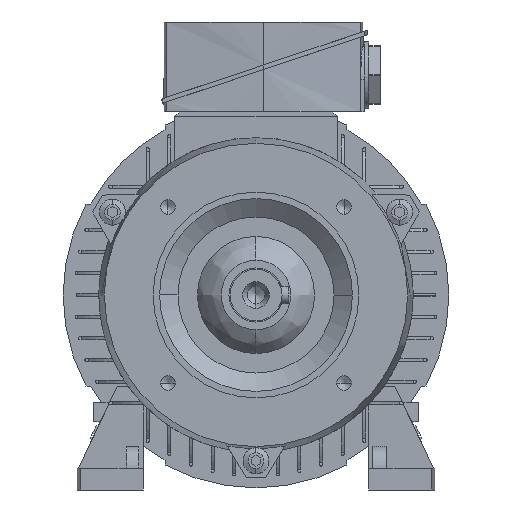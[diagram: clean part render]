
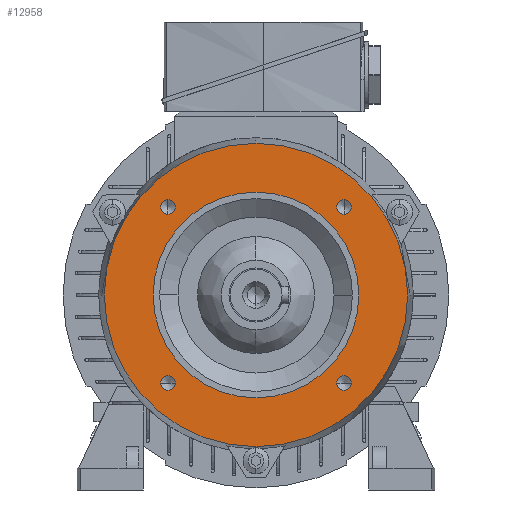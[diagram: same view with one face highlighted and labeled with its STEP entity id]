
A CAD part, left-side view. The second image highlights one B-rep face of the part: STEP entity #12958.
In plain terms, the highlighted planar face has unit normal (-1, 0, 0).
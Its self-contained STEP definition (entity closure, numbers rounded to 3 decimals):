
#187 = AXIS2_PLACEMENT_3D ( 'NONE', #12773, #12570, #12332 ) ;
#376 = AXIS2_PLACEMENT_3D ( 'NONE', #16396, #16325, #16278 ) ;
#667 = VERTEX_POINT ( 'NONE', #25274 ) ;
#944 = CARTESIAN_POINT ( 'NONE',  ( -34.5, 0., -47.5 ) ) ;
#1367 = CARTESIAN_POINT ( 'NONE',  ( -34.5, 40.659, 43.984 ) ) ;
#1917 = AXIS2_PLACEMENT_3D ( 'NONE', #18801, #18780, #18731 ) ;
#1924 = AXIS2_PLACEMENT_3D ( 'NONE', #18577, #23804, #18461 ) ;
#2826 = VERTEX_POINT ( 'NONE', #5197 ) ;
#3641 = CARTESIAN_POINT ( 'NONE',  ( -34.5, 0., -70. ) ) ;
#3792 = DIRECTION ( 'NONE',  ( 0., 0., -1. ) ) ;
#4373 = DIRECTION ( 'NONE',  ( 1., 0., 0. ) ) ;
#4396 = CARTESIAN_POINT ( 'NONE',  ( -34.5, -40.659, -43.984 ) ) ;
#4542 = CARTESIAN_POINT ( 'NONE',  ( -34.5, -40.659, -40.659 ) ) ;
#5197 = CARTESIAN_POINT ( 'NONE',  ( -34.5, 40.659, 37.334 ) ) ;
#5587 = AXIS2_PLACEMENT_3D ( 'NONE', #6302, #6256, #6219 ) ;
#5620 = AXIS2_PLACEMENT_3D ( 'NONE', #32292, #32250, #32225 ) ;
#5770 = VERTEX_POINT ( 'NONE', #19573 ) ;
#5905 = AXIS2_PLACEMENT_3D ( 'NONE', #4542, #4373, #3792 ) ;
#6163 = AXIS2_PLACEMENT_3D ( 'NONE', #20737, #21752, #22541 ) ;
#6219 = DIRECTION ( 'NONE',  ( 0., 0., 1. ) ) ;
#6256 = DIRECTION ( 'NONE',  ( -1., 0., 0. ) ) ;
#6302 = CARTESIAN_POINT ( 'NONE',  ( -34.5, 0., 58.75 ) ) ;
#6489 = AXIS2_PLACEMENT_3D ( 'NONE', #33076, #32704, #32641 ) ;
#6967 = AXIS2_PLACEMENT_3D ( 'NONE', #12232, #12132, #12015 ) ;
#7158 = CIRCLE ( 'NONE', #1917, 3.325 ) ;
#7231 = CIRCLE ( 'NONE', #1924, 3.325 ) ;
#7601 = VERTEX_POINT ( 'NONE', #13542 ) ;
#7661 = PLANE ( 'NONE',  #5587 ) ;
#7863 = CARTESIAN_POINT ( 'NONE',  ( -34.5, -40.659, 43.984 ) ) ;
#10160 = EDGE_CURVE ( 'NONE', #20860, #20980, #20338, .T. ) ;
#10317 = EDGE_CURVE ( 'NONE', #31026, #2826, #26247, .T. ) ;
#10408 = EDGE_CURVE ( 'NONE', #21512, #7601, #24703, .T. ) ;
#10541 = CIRCLE ( 'NONE', #5905, 3.325 ) ;
#10560 = DIRECTION ( 'NONE',  ( 0., 0., -1. ) ) ;
#10570 = EDGE_CURVE ( 'NONE', #667, #20643, #10541, .T. ) ;
#10613 = DIRECTION ( 'NONE',  ( 1., 0., 0. ) ) ;
#10645 = CARTESIAN_POINT ( 'NONE',  ( -34.5, 40.659, -40.659 ) ) ;
#10710 = EDGE_CURVE ( 'NONE', #16291, #5770, #15084, .T. ) ;
#10762 = FACE_BOUND ( 'NONE', #13818, .T. ) ;
#11029 = FACE_BOUND ( 'NONE', #25158, .T. ) ;
#11069 = FACE_OUTER_BOUND ( 'NONE', #14741, .T. ) ;
#11103 = FACE_BOUND ( 'NONE', #16407, .T. ) ;
#12015 = DIRECTION ( 'NONE',  ( 0., 0., 1. ) ) ;
#12132 = DIRECTION ( 'NONE',  ( 1., 0., 0. ) ) ;
#12232 = CARTESIAN_POINT ( 'NONE',  ( -34.5, 0., 0. ) ) ;
#12332 = DIRECTION ( 'NONE',  ( 0., 0., -1. ) ) ;
#12570 = DIRECTION ( 'NONE',  ( 1., 0., 0. ) ) ;
#12773 = CARTESIAN_POINT ( 'NONE',  ( -34.5, -40.659, -40.659 ) ) ;
#12958 = ADVANCED_FACE ( 'NONE', ( #10762, #11069, #25343, #11029, #11103, #25220 ), #7661, .T. ) ;
#12974 = CARTESIAN_POINT ( 'NONE',  ( -34.5, 0., 47.5 ) ) ;
#13250 = ORIENTED_EDGE ( 'NONE', *, *, #29735, .F. ) ;
#13277 = ORIENTED_EDGE ( 'NONE', *, *, #18713, .T. ) ;
#13542 = CARTESIAN_POINT ( 'NONE',  ( -34.5, 40.659, -43.984 ) ) ;
#13818 = EDGE_LOOP ( 'NONE', ( #15144, #26132 ) ) ;
#13994 = CIRCLE ( 'NONE', #28854, 3.325 ) ;
#14091 = CARTESIAN_POINT ( 'NONE',  ( -34.5, 40.659, -37.334 ) ) ;
#14401 = ORIENTED_EDGE ( 'NONE', *, *, #10710, .T. ) ;
#14741 = EDGE_LOOP ( 'NONE', ( #13250, #20377 ) ) ;
#14818 = CARTESIAN_POINT ( 'NONE',  ( -34.5, 0., 70. ) ) ;
#15084 = CIRCLE ( 'NONE', #5620, 3.325 ) ;
#15144 = ORIENTED_EDGE ( 'NONE', *, *, #18624, .T. ) ;
#16278 = DIRECTION ( 'NONE',  ( 0., 0., 1. ) ) ;
#16291 = VERTEX_POINT ( 'NONE', #7863 ) ;
#16325 = DIRECTION ( 'NONE',  ( 1., 0., 0. ) ) ;
#16396 = CARTESIAN_POINT ( 'NONE',  ( -34.5, 0., 0. ) ) ;
#16407 = EDGE_LOOP ( 'NONE', ( #26043, #20555 ) ) ;
#18461 = DIRECTION ( 'NONE',  ( 0., 0., -1. ) ) ;
#18564 = EDGE_CURVE ( 'NONE', #5770, #16291, #7158, .T. ) ;
#18569 = EDGE_CURVE ( 'NONE', #2826, #31026, #7231, .T. ) ;
#18577 = CARTESIAN_POINT ( 'NONE',  ( -34.5, 40.659, 40.659 ) ) ;
#18624 = EDGE_CURVE ( 'NONE', #20980, #20860, #26134, .T. ) ;
#18673 = EDGE_CURVE ( 'NONE', #20643, #667, #29098, .T. ) ;
#18713 = EDGE_CURVE ( 'NONE', #7601, #21512, #13994, .T. ) ;
#18731 = DIRECTION ( 'NONE',  ( 0., 0., -1. ) ) ;
#18780 = DIRECTION ( 'NONE',  ( 1., 0., 0. ) ) ;
#18801 = CARTESIAN_POINT ( 'NONE',  ( -34.5, -40.659, 40.659 ) ) ;
#19573 = CARTESIAN_POINT ( 'NONE',  ( -34.5, -40.659, 37.334 ) ) ;
#20338 = CIRCLE ( 'NONE', #6967, 47.5 ) ;
#20347 = EDGE_LOOP ( 'NONE', ( #33209, #27233 ) ) ;
#20377 = ORIENTED_EDGE ( 'NONE', *, *, #23507, .F. ) ;
#20555 = ORIENTED_EDGE ( 'NONE', *, *, #10570, .T. ) ;
#20643 = VERTEX_POINT ( 'NONE', #4396 ) ;
#20737 = CARTESIAN_POINT ( 'NONE',  ( -34.5, 40.659, -40.659 ) ) ;
#20860 = VERTEX_POINT ( 'NONE', #944 ) ;
#20980 = VERTEX_POINT ( 'NONE', #12974 ) ;
#21512 = VERTEX_POINT ( 'NONE', #14091 ) ;
#21752 = DIRECTION ( 'NONE',  ( 1., 0., 0. ) ) ;
#22541 = DIRECTION ( 'NONE',  ( 0., 0., -1. ) ) ;
#23507 = EDGE_CURVE ( 'NONE', #33336, #27592, #30873, .T. ) ;
#23566 = EDGE_LOOP ( 'NONE', ( #31523, #14401 ) ) ;
#23804 = DIRECTION ( 'NONE',  ( 1., 0., 0. ) ) ;
#24337 = DIRECTION ( 'NONE',  ( 0., 0., -1. ) ) ;
#24446 = DIRECTION ( 'NONE',  ( 1., 0., 0. ) ) ;
#24506 = CARTESIAN_POINT ( 'NONE',  ( -34.5, 0., 0. ) ) ;
#24703 = CIRCLE ( 'NONE', #6163, 3.325 ) ;
#25158 = EDGE_LOOP ( 'NONE', ( #13277, #33083 ) ) ;
#25220 = FACE_BOUND ( 'NONE', #23566, .T. ) ;
#25274 = CARTESIAN_POINT ( 'NONE',  ( -34.5, -40.659, -37.334 ) ) ;
#25343 = FACE_BOUND ( 'NONE', #20347, .T. ) ;
#25973 = AXIS2_PLACEMENT_3D ( 'NONE', #29360, #29320, #29283 ) ;
#26043 = ORIENTED_EDGE ( 'NONE', *, *, #18673, .T. ) ;
#26132 = ORIENTED_EDGE ( 'NONE', *, *, #10160, .T. ) ;
#26134 = CIRCLE ( 'NONE', #376, 47.5 ) ;
#26247 = CIRCLE ( 'NONE', #6489, 3.325 ) ;
#27233 = ORIENTED_EDGE ( 'NONE', *, *, #10317, .T. ) ;
#27592 = VERTEX_POINT ( 'NONE', #3641 ) ;
#28854 = AXIS2_PLACEMENT_3D ( 'NONE', #10645, #10613, #10560 ) ;
#29098 = CIRCLE ( 'NONE', #187, 3.325 ) ;
#29283 = DIRECTION ( 'NONE',  ( 0., 0., -1. ) ) ;
#29320 = DIRECTION ( 'NONE',  ( 1., 0., 0. ) ) ;
#29360 = CARTESIAN_POINT ( 'NONE',  ( -34.5, 0., 0. ) ) ;
#29735 = EDGE_CURVE ( 'NONE', #27592, #33336, #33527, .T. ) ;
#30873 = CIRCLE ( 'NONE', #31230, 70. ) ;
#31026 = VERTEX_POINT ( 'NONE', #1367 ) ;
#31230 = AXIS2_PLACEMENT_3D ( 'NONE', #24506, #24446, #24337 ) ;
#31523 = ORIENTED_EDGE ( 'NONE', *, *, #18564, .T. ) ;
#32225 = DIRECTION ( 'NONE',  ( 0., 0., -1. ) ) ;
#32250 = DIRECTION ( 'NONE',  ( 1., 0., 0. ) ) ;
#32292 = CARTESIAN_POINT ( 'NONE',  ( -34.5, -40.659, 40.659 ) ) ;
#32641 = DIRECTION ( 'NONE',  ( 0., 0., -1. ) ) ;
#32704 = DIRECTION ( 'NONE',  ( 1., 0., 0. ) ) ;
#33076 = CARTESIAN_POINT ( 'NONE',  ( -34.5, 40.659, 40.659 ) ) ;
#33083 = ORIENTED_EDGE ( 'NONE', *, *, #10408, .T. ) ;
#33209 = ORIENTED_EDGE ( 'NONE', *, *, #18569, .T. ) ;
#33336 = VERTEX_POINT ( 'NONE', #14818 ) ;
#33527 = CIRCLE ( 'NONE', #25973, 70. ) ;
